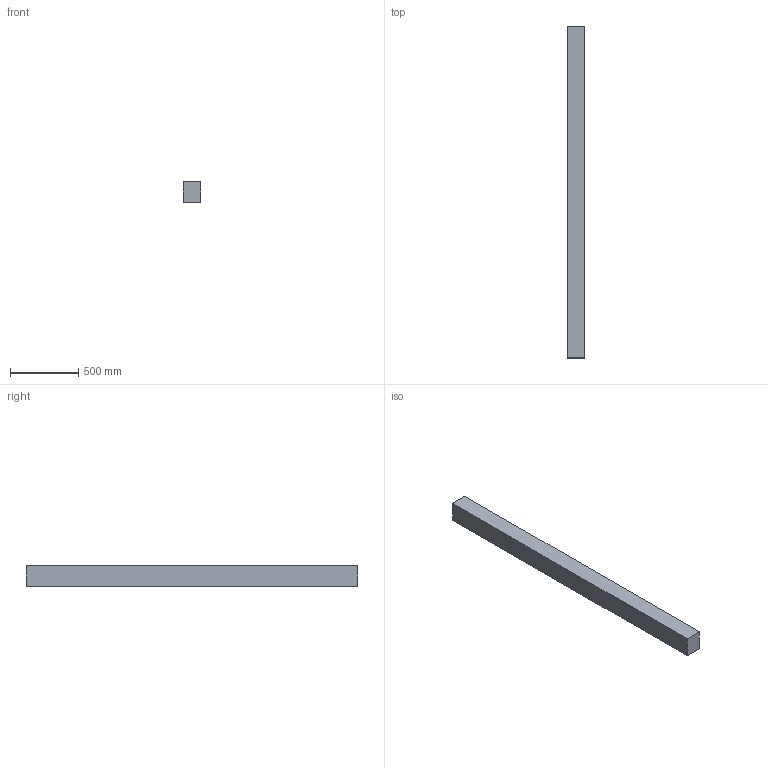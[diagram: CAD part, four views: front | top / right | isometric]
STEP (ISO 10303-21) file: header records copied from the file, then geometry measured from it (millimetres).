
FILE_DESCRIPTION(/* description */ (''),/* implementation_level */ '2;1');
FILE_NAME(/* name */ '5x6x96',/* time_stamp */ '2024-09-20T11:46:36-05:00',/* author */ (''),/* organization */ (''),/* preprocessor_version */ 'ST-DEVELOPER v19.2',/* originating_system */ 'Rhino 8.5',/* authorisation */ '');
FILE_SCHEMA (('CONFIG_CONTROL_DESIGN'));
Length unit declared in the file: inch
Products named in the file (1): Document
Bounding box: 127 x 2438.4 x 152.4 mm (x, y, z)
Volume: 47194744.3 mm3; surface area: 1401287.5 mm2
Topology: 1 solids, 1 shells, 6 faces, 12 edges, 8 vertices
Faces by surface type: plane 6
Entity records: 226 total; most frequent: CARTESIAN_POINT 40, ORIENTED_EDGE 24, EDGE_CURVE 12, B_SPLINE_CURVE_WITH_KNOTS 12, DIRECTION 10, VERTEX_POINT 8, AXIS2_PLACEMENT_3D 8, ORGANIZATION 7
